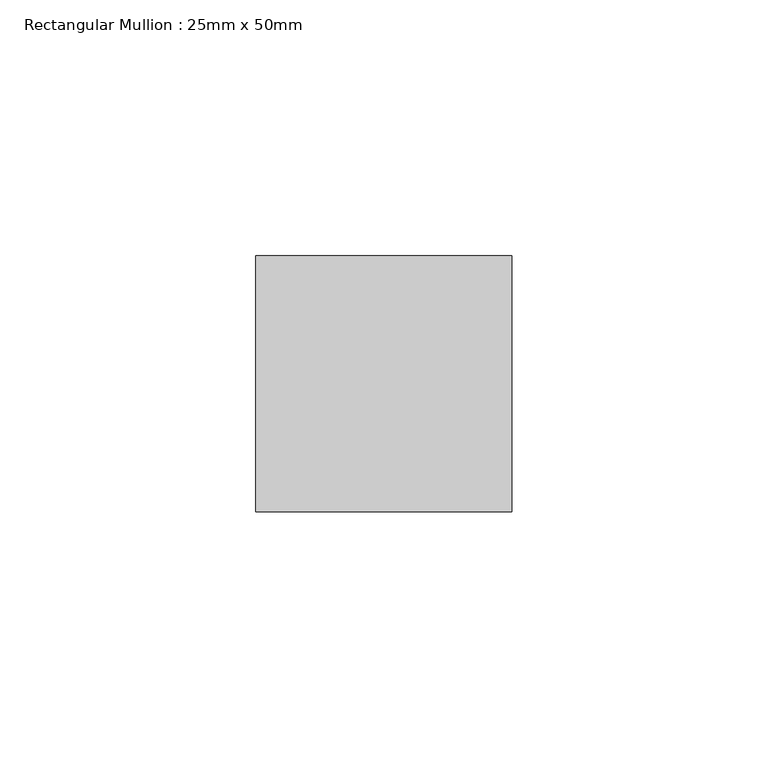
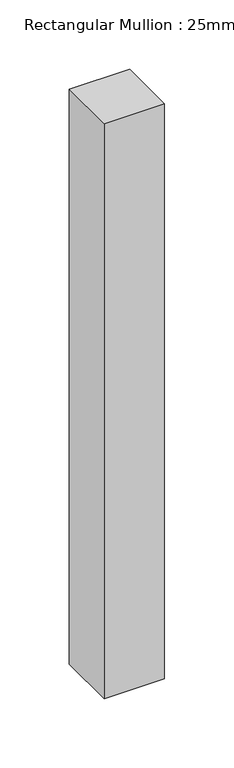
"""IFC4 building model written with IfcOpenShell, lengths in millimetres: member geometry, Rectangular Mullion : 25mm x 50mm."""

from ifc_helpers import new_model, si_unit, frame, origin, place, context, project, spatial, polyline, outline, extrude, source, transform, mapped, element, save


def rectangular_mullion_25mm_x_50mm_35cefd9a(model_context):
    return source(origin(), model_context, "Body", "SweptSolid", [
        extrude(outline(polyline([(0.0, 25.0), (0.0, -25.0), (-50.0, -25.0), (-50.0, 25.0), (0.0, 25.0)])), frame((0.0, 0.0, -505.0), z_axis=(0.0, 0.0, 1.0), x_axis=(1.0, 0.0, 0.0)), (0.0, 0.0, 1.0), 505.0),
    ])


if __name__ == "__main__":
    model = new_model("IFC4")
    model_context = context("Model", 3, world=origin())
    ifc_project = project(units=[si_unit("LENGTHUNIT", "METRE", prefix="MILLI")], contexts=[model_context])
    site = spatial("IfcSite", under=ifc_project)
    building = spatial("IfcBuilding", under=site)
    placement = place(None, origin())
    rectangular_mullion_25mm_x_50mm_shape = rectangular_mullion_25mm_x_50mm_35cefd9a(model_context)
    element("IfcMember", 1, ObjectType="Rectangular Mullion : 25mm x 50mm", at=placement, inside=building, context=model_context, shape_type="MappedRepresentation", body=[
        mapped(rectangular_mullion_25mm_x_50mm_shape, transform((0.0, 0.0, 0.0), x_axis=(1.0, 0.0, 0.0), y_axis=(0.0, 1.0, 0.0), z_axis=(0.0, 0.0, 1.0))),
    ])
    save(model, "model.ifc")
